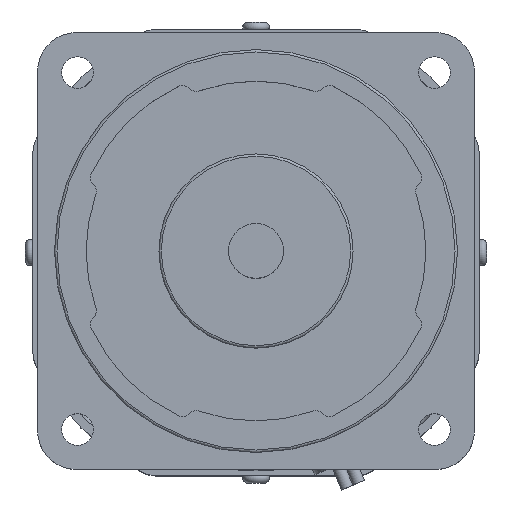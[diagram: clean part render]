
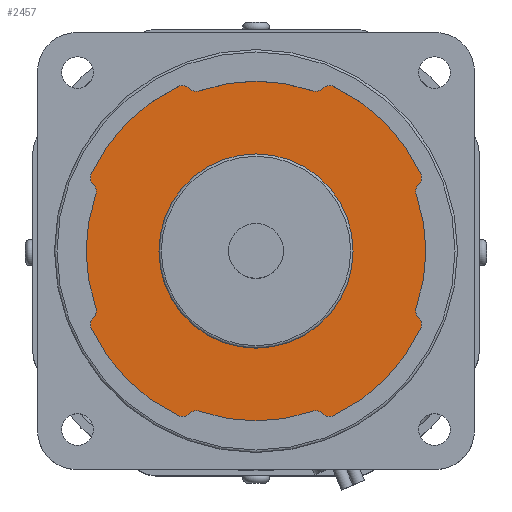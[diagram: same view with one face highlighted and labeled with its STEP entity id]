
A CAD part, top view. The second image highlights one B-rep face of the part: STEP entity #2457.
In plain terms, the highlighted planar face has unit normal (0, 0, 1).
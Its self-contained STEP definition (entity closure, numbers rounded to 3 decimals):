
#1138=CARTESIAN_POINT('',(20.0,0.,232.0));
#1139=VERTEX_POINT('',#1138);
#1140=CARTESIAN_POINT('',(0.,0.,232.0));
#1141=DIRECTION('',(0.0,0.0,-1.0));
#1142=DIRECTION('',(-1.0,0.0,0.0));
#1143=AXIS2_PLACEMENT_3D('',#1140,#1141,#1142);
#1144=CIRCLE('',#1143,20.0);
#1145=EDGE_CURVE('',#1139,#1139,#1144,.T.);
#1168=CARTESIAN_POINT('',(-13.722,-33.501,232.0));
#1169=VERTEX_POINT('',#1168);
#1185=CARTESIAN_POINT('',(-11.626,-33.013,232.0));
#1186=VERTEX_POINT('',#1185);
#1193=CARTESIAN_POINT('',(-12.291,-34.899,232.0));
#1194=DIRECTION('',(0.0,0.0,-1.0));
#1195=DIRECTION('',(-0.408,0.913,0.0));
#1196=AXIS2_PLACEMENT_3D('',#1193,#1194,#1195);
#1197=CIRCLE('',#1196,2.0);
#1198=EDGE_CURVE('',#1186,#1169,#1197,.F.);
#1218=CARTESIAN_POINT('',(11.626,-33.013,232.0));
#1219=VERTEX_POINT('',#1218);
#1226=CARTESIAN_POINT('',(0.,0.,232.0));
#1227=DIRECTION('',(0.,0.,1.0));
#1228=DIRECTION('',(-0.383,-0.924,0.));
#1229=AXIS2_PLACEMENT_3D('',#1226,#1227,#1228);
#1230=CIRCLE('',#1229,35.0);
#1231=EDGE_CURVE('',#1186,#1219,#1230,.T.);
#1241=CARTESIAN_POINT('',(13.722,-33.501,232.0));
#1242=VERTEX_POINT('',#1241);
#1251=CARTESIAN_POINT('',(12.291,-34.899,232.0));
#1252=DIRECTION('',(0.0,0.0,-1.0));
#1253=DIRECTION('',(0.408,0.913,0.0));
#1254=AXIS2_PLACEMENT_3D('',#1251,#1252,#1253);
#1255=CIRCLE('',#1254,2.0);
#1256=EDGE_CURVE('',#1242,#1219,#1255,.F.);
#1283=CARTESIAN_POINT('',(16.006,-33.913,232.0));
#1284=VERTEX_POINT('',#1283);
#1291=CARTESIAN_POINT('',(15.152,-32.104,232.0));
#1292=DIRECTION('',(0.0,0.0,1.0));
#1293=DIRECTION('',(0.715,0.699,0.0));
#1294=AXIS2_PLACEMENT_3D('',#1291,#1292,#1293);
#1295=CIRCLE('',#1294,2.);
#1296=EDGE_CURVE('',#1242,#1284,#1295,.T.);
#1307=CARTESIAN_POINT('',(33.913,-16.006,232.0));
#1308=VERTEX_POINT('',#1307);
#1317=CARTESIAN_POINT('',(0.,0.,232.0));
#1318=DIRECTION('',(0.,0.,1.0));
#1319=DIRECTION('',(0.383,-0.924,0.));
#1320=AXIS2_PLACEMENT_3D('',#1317,#1318,#1319);
#1321=CIRCLE('',#1320,37.5);
#1322=EDGE_CURVE('',#1284,#1308,#1321,.T.);
#1349=CARTESIAN_POINT('',(33.501,-13.722,232.0));
#1350=VERTEX_POINT('',#1349);
#1357=CARTESIAN_POINT('',(32.104,-15.152,232.0));
#1358=DIRECTION('',(0.0,0.0,1.0));
#1359=DIRECTION('',(-0.904,0.427,0.0));
#1360=AXIS2_PLACEMENT_3D('',#1357,#1358,#1359);
#1361=CIRCLE('',#1360,2.);
#1362=EDGE_CURVE('',#1308,#1350,#1361,.T.);
#1383=CARTESIAN_POINT('',(33.013,-11.626,232.0));
#1384=VERTEX_POINT('',#1383);
#1391=CARTESIAN_POINT('',(34.899,-12.291,232.0));
#1392=DIRECTION('',(0.0,0.0,-1.0));
#1393=DIRECTION('',(-0.913,-0.408,0.0));
#1394=AXIS2_PLACEMENT_3D('',#1391,#1392,#1393);
#1395=CIRCLE('',#1394,2.0);
#1396=EDGE_CURVE('',#1384,#1350,#1395,.F.);
#1406=CARTESIAN_POINT('',(33.013,11.626,232.0));
#1407=VERTEX_POINT('',#1406);
#1416=CARTESIAN_POINT('',(0.,0.,232.0));
#1417=DIRECTION('',(0.,0.,1.0));
#1418=DIRECTION('',(0.924,-0.383,0.));
#1419=AXIS2_PLACEMENT_3D('',#1416,#1417,#1418);
#1420=CIRCLE('',#1419,35.);
#1421=EDGE_CURVE('',#1384,#1407,#1420,.T.);
#1439=CARTESIAN_POINT('',(33.501,13.722,232.0));
#1440=VERTEX_POINT('',#1439);
#1449=CARTESIAN_POINT('',(34.899,12.291,232.0));
#1450=DIRECTION('',(0.0,0.0,-1.0));
#1451=DIRECTION('',(-0.913,0.408,0.0));
#1452=AXIS2_PLACEMENT_3D('',#1449,#1450,#1451);
#1453=CIRCLE('',#1452,2.0);
#1454=EDGE_CURVE('',#1440,#1407,#1453,.F.);
#1481=CARTESIAN_POINT('',(33.913,16.006,232.0));
#1482=VERTEX_POINT('',#1481);
#1489=CARTESIAN_POINT('',(32.104,15.152,232.0));
#1490=DIRECTION('',(0.0,0.0,1.0));
#1491=DIRECTION('',(-0.699,0.715,0.0));
#1492=AXIS2_PLACEMENT_3D('',#1489,#1490,#1491);
#1493=CIRCLE('',#1492,2.);
#1494=EDGE_CURVE('',#1440,#1482,#1493,.T.);
#1505=CARTESIAN_POINT('',(16.006,33.913,232.0));
#1506=VERTEX_POINT('',#1505);
#1515=CARTESIAN_POINT('',(0.,0.,232.0));
#1516=DIRECTION('',(0.,0.,1.0));
#1517=DIRECTION('',(0.924,0.383,0.));
#1518=AXIS2_PLACEMENT_3D('',#1515,#1516,#1517);
#1519=CIRCLE('',#1518,37.5);
#1520=EDGE_CURVE('',#1482,#1506,#1519,.T.);
#1547=CARTESIAN_POINT('',(13.722,33.501,232.0));
#1548=VERTEX_POINT('',#1547);
#1555=CARTESIAN_POINT('',(15.152,32.104,232.0));
#1556=DIRECTION('',(0.0,0.0,1.0));
#1557=DIRECTION('',(-0.427,-0.904,0.0));
#1558=AXIS2_PLACEMENT_3D('',#1555,#1556,#1557);
#1559=CIRCLE('',#1558,2.);
#1560=EDGE_CURVE('',#1506,#1548,#1559,.T.);
#1581=CARTESIAN_POINT('',(11.626,33.013,232.0));
#1582=VERTEX_POINT('',#1581);
#1589=CARTESIAN_POINT('',(12.291,34.899,232.0));
#1590=DIRECTION('',(0.0,0.0,-1.0));
#1591=DIRECTION('',(0.408,-0.913,0.0));
#1592=AXIS2_PLACEMENT_3D('',#1589,#1590,#1591);
#1593=CIRCLE('',#1592,2.0);
#1594=EDGE_CURVE('',#1582,#1548,#1593,.F.);
#1604=CARTESIAN_POINT('',(-11.626,33.013,232.0));
#1605=VERTEX_POINT('',#1604);
#1614=CARTESIAN_POINT('',(0.,0.,232.0));
#1615=DIRECTION('',(0.,0.,1.0));
#1616=DIRECTION('',(0.383,0.924,0.));
#1617=AXIS2_PLACEMENT_3D('',#1614,#1615,#1616);
#1618=CIRCLE('',#1617,35.0);
#1619=EDGE_CURVE('',#1582,#1605,#1618,.T.);
#1637=CARTESIAN_POINT('',(-13.722,33.501,232.0));
#1638=VERTEX_POINT('',#1637);
#1647=CARTESIAN_POINT('',(-12.291,34.899,232.0));
#1648=DIRECTION('',(0.0,0.0,-1.0));
#1649=DIRECTION('',(-0.408,-0.913,0.0));
#1650=AXIS2_PLACEMENT_3D('',#1647,#1648,#1649);
#1651=CIRCLE('',#1650,2.0);
#1652=EDGE_CURVE('',#1638,#1605,#1651,.F.);
#1679=CARTESIAN_POINT('',(-16.006,33.913,232.0));
#1680=VERTEX_POINT('',#1679);
#1687=CARTESIAN_POINT('',(-15.152,32.104,232.0));
#1688=DIRECTION('',(0.0,0.0,1.0));
#1689=DIRECTION('',(-0.715,-0.699,0.0));
#1690=AXIS2_PLACEMENT_3D('',#1687,#1688,#1689);
#1691=CIRCLE('',#1690,2.);
#1692=EDGE_CURVE('',#1638,#1680,#1691,.T.);
#1713=CARTESIAN_POINT('',(-33.913,16.006,232.0));
#1714=VERTEX_POINT('',#1713);
#1721=CARTESIAN_POINT('',(0.,0.,232.0));
#1722=DIRECTION('',(0.,0.,1.0));
#1723=DIRECTION('',(-0.383,0.924,0.));
#1724=AXIS2_PLACEMENT_3D('',#1721,#1722,#1723);
#1725=CIRCLE('',#1724,37.5);
#1726=EDGE_CURVE('',#1680,#1714,#1725,.T.);
#1745=CARTESIAN_POINT('',(-33.501,13.722,232.0));
#1746=VERTEX_POINT('',#1745);
#1753=CARTESIAN_POINT('',(-32.104,15.152,232.0));
#1754=DIRECTION('',(0.0,0.0,1.0));
#1755=DIRECTION('',(0.904,-0.427,0.0));
#1756=AXIS2_PLACEMENT_3D('',#1753,#1754,#1755);
#1757=CIRCLE('',#1756,2.);
#1758=EDGE_CURVE('',#1714,#1746,#1757,.T.);
#1779=CARTESIAN_POINT('',(-33.013,11.626,232.0));
#1780=VERTEX_POINT('',#1779);
#1787=CARTESIAN_POINT('',(-34.899,12.291,232.0));
#1788=DIRECTION('',(0.0,0.0,-1.0));
#1789=DIRECTION('',(0.913,0.408,0.0));
#1790=AXIS2_PLACEMENT_3D('',#1787,#1788,#1789);
#1791=CIRCLE('',#1790,2.0);
#1792=EDGE_CURVE('',#1780,#1746,#1791,.F.);
#1802=CARTESIAN_POINT('',(-33.013,-11.626,232.0));
#1803=VERTEX_POINT('',#1802);
#1812=CARTESIAN_POINT('',(0.,0.,232.0));
#1813=DIRECTION('',(0.,0.,1.0));
#1814=DIRECTION('',(-0.924,0.383,0.));
#1815=AXIS2_PLACEMENT_3D('',#1812,#1813,#1814);
#1816=CIRCLE('',#1815,35.0);
#1817=EDGE_CURVE('',#1780,#1803,#1816,.T.);
#1835=CARTESIAN_POINT('',(-33.501,-13.722,232.0));
#1836=VERTEX_POINT('',#1835);
#1845=CARTESIAN_POINT('',(-34.899,-12.291,232.0));
#1846=DIRECTION('',(0.0,0.0,-1.0));
#1847=DIRECTION('',(0.913,-0.408,0.0));
#1848=AXIS2_PLACEMENT_3D('',#1845,#1846,#1847);
#1849=CIRCLE('',#1848,2.0);
#1850=EDGE_CURVE('',#1836,#1803,#1849,.F.);
#1877=CARTESIAN_POINT('',(-33.913,-16.006,232.0));
#1878=VERTEX_POINT('',#1877);
#1885=CARTESIAN_POINT('',(-32.104,-15.152,232.0));
#1886=DIRECTION('',(0.0,0.0,1.0));
#1887=DIRECTION('',(0.699,-0.715,0.0));
#1888=AXIS2_PLACEMENT_3D('',#1885,#1886,#1887);
#1889=CIRCLE('',#1888,2.);
#1890=EDGE_CURVE('',#1836,#1878,#1889,.T.);
#1901=CARTESIAN_POINT('',(-16.006,-33.913,232.0));
#1902=VERTEX_POINT('',#1901);
#1911=CARTESIAN_POINT('',(0.,0.,232.0));
#1912=DIRECTION('',(0.,0.,1.0));
#1913=DIRECTION('',(-0.924,-0.383,0.));
#1914=AXIS2_PLACEMENT_3D('',#1911,#1912,#1913);
#1915=CIRCLE('',#1914,37.5);
#1916=EDGE_CURVE('',#1878,#1902,#1915,.T.);
#1942=CARTESIAN_POINT('',(-15.152,-32.104,232.0));
#1943=DIRECTION('',(0.0,0.0,1.0));
#1944=DIRECTION('',(0.427,0.904,0.0));
#1945=AXIS2_PLACEMENT_3D('',#1942,#1943,#1944);
#1946=CIRCLE('',#1945,2.);
#1947=EDGE_CURVE('',#1902,#1169,#1946,.T.);
#2423=CARTESIAN_POINT('',(0.,0.,232.0));
#2424=DIRECTION('',(0.0,0.0,1.0));
#2425=DIRECTION('',(1.0,0.0,0.0));
#2426=AXIS2_PLACEMENT_3D('',#2423,#2424,#2425);
#2427=PLANE('',#2426);
#2428=ORIENTED_EDGE('',*,*,#1947,.T.);
#2429=ORIENTED_EDGE('',*,*,#1198,.F.);
#2430=ORIENTED_EDGE('',*,*,#1231,.T.);
#2431=ORIENTED_EDGE('',*,*,#1256,.F.);
#2432=ORIENTED_EDGE('',*,*,#1296,.T.);
#2433=ORIENTED_EDGE('',*,*,#1322,.T.);
#2434=ORIENTED_EDGE('',*,*,#1362,.T.);
#2435=ORIENTED_EDGE('',*,*,#1396,.F.);
#2436=ORIENTED_EDGE('',*,*,#1421,.T.);
#2437=ORIENTED_EDGE('',*,*,#1454,.F.);
#2438=ORIENTED_EDGE('',*,*,#1494,.T.);
#2439=ORIENTED_EDGE('',*,*,#1520,.T.);
#2440=ORIENTED_EDGE('',*,*,#1560,.T.);
#2441=ORIENTED_EDGE('',*,*,#1594,.F.);
#2442=ORIENTED_EDGE('',*,*,#1619,.T.);
#2443=ORIENTED_EDGE('',*,*,#1652,.F.);
#2444=ORIENTED_EDGE('',*,*,#1692,.T.);
#2445=ORIENTED_EDGE('',*,*,#1726,.T.);
#2446=ORIENTED_EDGE('',*,*,#1758,.T.);
#2447=ORIENTED_EDGE('',*,*,#1792,.F.);
#2448=ORIENTED_EDGE('',*,*,#1817,.T.);
#2449=ORIENTED_EDGE('',*,*,#1850,.F.);
#2450=ORIENTED_EDGE('',*,*,#1890,.T.);
#2451=ORIENTED_EDGE('',*,*,#1916,.T.);
#2452=EDGE_LOOP('',(#2428,#2429,#2430,#2431,#2432,#2433,#2434,#2435,#2436,#2437,#2438,#2439,#2440,#2441,#2442,#2443,#2444,#2445,#2446,#2447,#2448,#2449,#2450,#2451));
#2453=FACE_OUTER_BOUND('',#2452,.T.);
#2454=ORIENTED_EDGE('',*,*,#1145,.T.);
#2455=EDGE_LOOP('',(#2454));
#2456=FACE_BOUND('',#2455,.T.);
#2457=ADVANCED_FACE('',(#2453,#2456),#2427,.T.);
